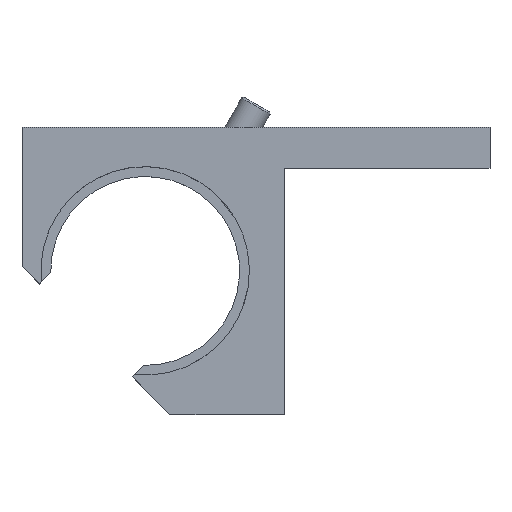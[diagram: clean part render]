
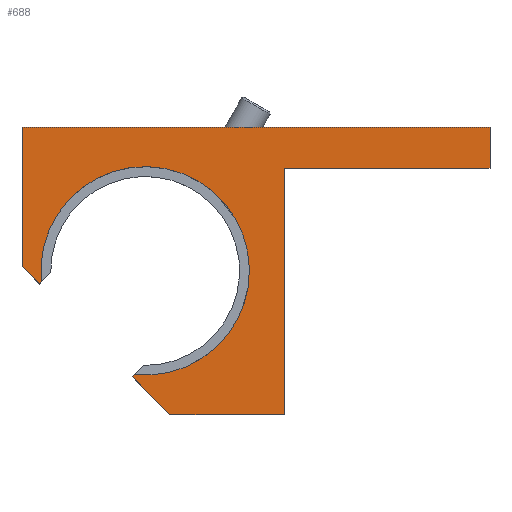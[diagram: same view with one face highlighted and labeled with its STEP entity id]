
A CAD part, top view. The second image highlights one B-rep face of the part: STEP entity #688.
In plain terms, the highlighted planar face has unit normal (0, 0, 1).
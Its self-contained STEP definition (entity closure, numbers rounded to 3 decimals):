
#42=PLANE('',#759);
#76=FACE_OUTER_BOUND('',#117,.T.);
#117=EDGE_LOOP('',(#523,#524,#525,#526,#527,#528,#529,#530,#531,#532,#533));
#153=CIRCLE('',#760,12.7);
#193=LINE('',#1059,#257);
#199=LINE('',#1072,#263);
#202=LINE('',#1078,#266);
#203=LINE('',#1081,#267);
#204=LINE('',#1083,#268);
#205=LINE('',#1085,#269);
#206=LINE('',#1087,#270);
#207=LINE('',#1089,#271);
#208=LINE('',#1091,#272);
#209=LINE('',#1092,#273);
#257=VECTOR('',#874,10.);
#263=VECTOR('',#882,10.);
#266=VECTOR('',#887,10.);
#267=VECTOR('',#890,10.);
#268=VECTOR('',#891,10.);
#269=VECTOR('',#892,10.);
#270=VECTOR('',#893,10.);
#271=VECTOR('',#894,10.);
#272=VECTOR('',#895,10.);
#273=VECTOR('',#896,10.);
#317=VERTEX_POINT('',#1049);
#321=VERTEX_POINT('',#1057);
#323=VERTEX_POINT('',#1062);
#327=VERTEX_POINT('',#1070);
#329=VERTEX_POINT('',#1076);
#330=VERTEX_POINT('',#1080);
#331=VERTEX_POINT('',#1082);
#332=VERTEX_POINT('',#1084);
#333=VERTEX_POINT('',#1086);
#334=VERTEX_POINT('',#1088);
#335=VERTEX_POINT('',#1090);
#392=EDGE_CURVE('',#317,#321,#193,.T.);
#398=EDGE_CURVE('',#323,#327,#199,.T.);
#401=EDGE_CURVE('',#329,#321,#202,.T.);
#402=EDGE_CURVE('',#330,#329,#203,.T.);
#403=EDGE_CURVE('',#331,#330,#204,.T.);
#404=EDGE_CURVE('',#332,#331,#205,.T.);
#405=EDGE_CURVE('',#333,#332,#206,.T.);
#406=EDGE_CURVE('',#334,#333,#207,.T.);
#407=EDGE_CURVE('',#335,#334,#208,.T.);
#408=EDGE_CURVE('',#323,#335,#209,.T.);
#409=EDGE_CURVE('',#327,#317,#153,.T.);
#523=ORIENTED_EDGE('',*,*,#392,.T.);
#524=ORIENTED_EDGE('',*,*,#401,.F.);
#525=ORIENTED_EDGE('',*,*,#402,.F.);
#526=ORIENTED_EDGE('',*,*,#403,.F.);
#527=ORIENTED_EDGE('',*,*,#404,.F.);
#528=ORIENTED_EDGE('',*,*,#405,.F.);
#529=ORIENTED_EDGE('',*,*,#406,.F.);
#530=ORIENTED_EDGE('',*,*,#407,.F.);
#531=ORIENTED_EDGE('',*,*,#408,.F.);
#532=ORIENTED_EDGE('',*,*,#398,.T.);
#533=ORIENTED_EDGE('',*,*,#409,.T.);
#688=ADVANCED_FACE('',(#76),#42,.T.);
#759=AXIS2_PLACEMENT_3D('',#1079,#888,#889);
#760=AXIS2_PLACEMENT_3D('',#1093,#897,#898);
#874=DIRECTION('',(-0.707,-0.707,0.));
#882=DIRECTION('',(0.707,0.707,0.));
#887=DIRECTION('',(-0.707,0.707,0.));
#888=DIRECTION('center_axis',(0.,0.,1.));
#889=DIRECTION('ref_axis',(1.,0.,0.));
#890=DIRECTION('',(-1.,0.,0.));
#891=DIRECTION('',(0.,-1.,0.));
#892=DIRECTION('',(-1.,0.,0.));
#893=DIRECTION('',(0.,-1.,0.));
#894=DIRECTION('',(1.,0.,0.));
#895=DIRECTION('',(0.,1.,0.));
#896=DIRECTION('',(-0.707,0.707,0.));
#897=DIRECTION('center_axis',(0.,0.,-1.));
#898=DIRECTION('ref_axis',(1.,0.,0.));
#1049=CARTESIAN_POINT('',(13.682,1.205,8.));
#1057=CARTESIAN_POINT('',(13.407,0.93,8.));
#1059=CARTESIAN_POINT('',(19.493,7.016,8.));
#1062=CARTESIAN_POINT('',(2.093,12.243,8.));
#1070=CARTESIAN_POINT('',(2.369,12.519,8.));
#1072=CARTESIAN_POINT('',(11.026,21.176,8.));
#1076=CARTESIAN_POINT('',(18.,-3.664,8.));
#1078=CARTESIAN_POINT('',(9.712,4.624,8.));
#1079=CARTESIAN_POINT('Origin',(24.424,17.913,8.));
#1080=CARTESIAN_POINT('',(32.,-3.664,8.));
#1081=CARTESIAN_POINT('',(32.,-3.664,8.));
#1082=CARTESIAN_POINT('',(32.,26.336,8.));
#1083=CARTESIAN_POINT('',(32.,26.336,8.));
#1084=CARTESIAN_POINT('',(57.,26.336,8.));
#1085=CARTESIAN_POINT('',(57.,26.336,8.));
#1086=CARTESIAN_POINT('',(57.,31.336,8.));
#1087=CARTESIAN_POINT('',(57.,31.336,8.));
#1088=CARTESIAN_POINT('',(0.,31.336,8.));
#1089=CARTESIAN_POINT('',(0.,31.336,8.));
#1090=CARTESIAN_POINT('',(0.,14.336,8.));
#1091=CARTESIAN_POINT('',(0.,-3.664,8.));
#1092=CARTESIAN_POINT('',(9.712,4.624,8.));
#1093=CARTESIAN_POINT('Origin',(15.,13.836,8.));
